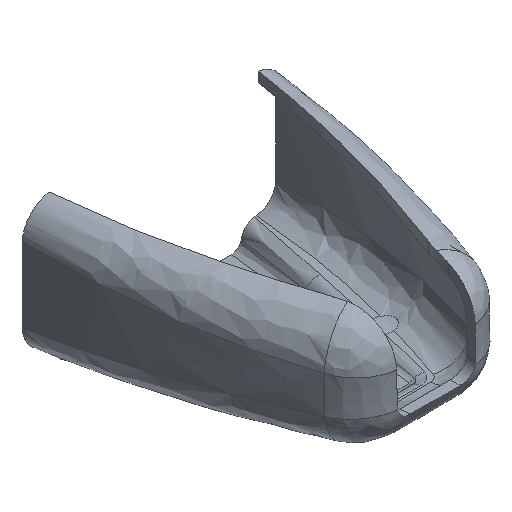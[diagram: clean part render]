
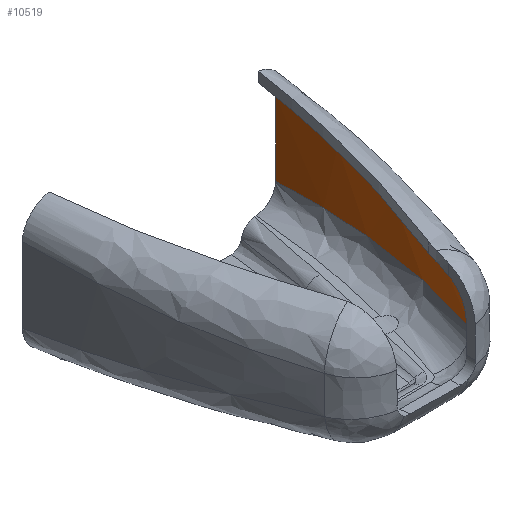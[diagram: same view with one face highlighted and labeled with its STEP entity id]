
A CAD part, isometric view. The second image highlights one B-rep face of the part: STEP entity #10519.
In plain terms, the highlighted free-form (B-spline) face has degree [3, 1] with [7, 3] control points.
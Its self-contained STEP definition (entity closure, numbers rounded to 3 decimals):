
#201 = ORIENTED_EDGE ( 'NONE', *, *, #4612, .T. ) ;
#219 = CARTESIAN_POINT ( 'NONE',  ( 14.208, 4.93, -3.784 ) ) ;
#278 = CARTESIAN_POINT ( 'NONE',  ( 21.32, 27.399, 4.603 ) ) ;
#339 = CARTESIAN_POINT ( 'NONE',  ( 22.418, 96.87, -12.622 ) ) ;
#444 = CARTESIAN_POINT ( 'NONE',  ( 22.121, 33.842, 5.123 ) ) ;
#509 = CARTESIAN_POINT ( 'NONE',  ( 24.726, 55., 6.757 ) ) ;
#1257 = VERTEX_POINT ( 'NONE', #11584 ) ;
#1730 = CARTESIAN_POINT ( 'NONE',  ( 21.32, 27.247, -5.432 ) ) ;
#1892 = CARTESIAN_POINT ( 'NONE',  ( 19.52, 21.29, 4.297 ) ) ;
#1895 = CARTESIAN_POINT ( 'NONE',  ( 24.728, 55., 4.847 ) ) ;
#1966 = CARTESIAN_POINT ( 'NONE',  ( 24.732, 55., -0.543 ) ) ;
#2682 = FACE_OUTER_BOUND ( 'NONE', #2886, .T. ) ;
#2886 = EDGE_LOOP ( 'NONE', ( #10141, #201, #5133, #9433 ) ) ;
#3192 = CARTESIAN_POINT ( 'NONE',  ( 24.902, 50.355, -7.706 ) ) ;
#3355 = CARTESIAN_POINT ( 'NONE',  ( 14.208, 5.048, 3.639 ) ) ;
#3359 = CARTESIAN_POINT ( 'NONE',  ( 24.73, 55., 2.937 ) ) ;
#3423 = CARTESIAN_POINT ( 'NONE',  ( 24.735, 55., -3.685 ) ) ;
#4120 = B_SPLINE_CURVE_WITH_KNOTS ( 'NONE', 3,
 ( #509, #1895, #3359, #10653, #1966, #12104, #3423, #13559, #4894, #15014 ),
 .UNSPECIFIED., .F., .F.,
 ( 4, 3, 3, 4 ),
 ( 0., 0.006, 0.01, 0.015 ),
 .UNSPECIFIED. ) ;
#4612 = EDGE_CURVE ( 'NONE', #7208, #16670, #4120, .T. ) ;
#4652 = CARTESIAN_POINT ( 'NONE',  ( 25.424, 73.969, 8.382 ) ) ;
#4894 = CARTESIAN_POINT ( 'NONE',  ( 24.737, 55., -6.726 ) ) ;
#5133 = ORIENTED_EDGE ( 'NONE', *, *, #13243, .F. ) ;
#6127 = CARTESIAN_POINT ( 'NONE',  ( 25.424, 73.7, -10.517 ) ) ;
#6230 = CARTESIAN_POINT ( 'NONE',  ( 24.459, 50.772, 6.406 ) ) ;
#6294 = CARTESIAN_POINT ( 'NONE',  ( 19.555, 21.281, -4.879 ) ) ;
#6949 = CARTESIAN_POINT ( 'NONE',  ( 14.208, 5.048, 3.639 ) ) ;
#7208 = VERTEX_POINT ( 'NONE', #18047 ) ;
#7516 = CARTESIAN_POINT ( 'NONE',  ( 16.906, 12.382, 3.85 ) ) ;
#7574 = CARTESIAN_POINT ( 'NONE',  ( 23.747, 89.195, -11.955 ) ) ;
#7675 = CARTESIAN_POINT ( 'NONE',  ( 24.04, 46.538, 6.064 ) ) ;
#7732 = CARTESIAN_POINT ( 'NONE',  ( 24.207, 46.439, -7.313 ) ) ;
#8760 = VERTEX_POINT ( 'NONE', #17838 ) ;
#8955 = CARTESIAN_POINT ( 'NONE',  ( 16.906, 12.255, -4.267 ) ) ;
#8989 = B_SPLINE_CURVE_WITH_KNOTS ( 'NONE', 1,
 ( #6949, #15490 ),
 .UNSPECIFIED., .F., .F.,
 ( 2, 2 ),
 ( 0., 1. ),
 .UNSPECIFIED. ) ;
#9020 = CARTESIAN_POINT ( 'NONE',  ( 22.418, 97.187, 10.067 ) ) ;
#9123 = CARTESIAN_POINT ( 'NONE',  ( 22.85, 38.061, 5.424 ) ) ;
#9433 = ORIENTED_EDGE ( 'NONE', *, *, #14815, .F. ) ;
#10141 = ORIENTED_EDGE ( 'NONE', *, *, #13241, .F. ) ;
#10425 = CARTESIAN_POINT ( 'NONE',  ( 21.32, 27.248, -5.333 ) ) ;
#10484 = CARTESIAN_POINT ( 'NONE',  ( 22.418, 96.866, -12.849 ) ) ;
#10519 = ADVANCED_FACE ( 'NONE', ( #2682 ), #11144, .T. ) ;
#10587 = CARTESIAN_POINT ( 'NONE',  ( 21.719, 31.742, 4.98 ) ) ;
#10653 = CARTESIAN_POINT ( 'NONE',  ( 24.731, 55., 1.028 ) ) ;
#11144 = B_SPLINE_SURFACE_WITH_KNOTS ( 'NONE', 3, 1, ( 
 ( #14720, #219, #16187 ),
 ( #7516, #17658, #8955 ),
 ( #278, #10425, #1730 ),
 ( #11871, #3192, #13331 ),
 ( #4652, #14775, #6127 ),
 ( #16250, #7574, #17723 ),
 ( #9020, #339, #10484 ) ),
 .UNSPECIFIED., .F., .F., .F.,
 ( 4, 1, 1, 1, 4 ),
 ( 2, 1, 2 ),
 ( 0., 0.25, 0.5, 0.75, 1. ),
 ( 0., 1., 1.01 ),
 .UNSPECIFIED. ) ;
#11584 = CARTESIAN_POINT ( 'NONE',  ( 14.208, 5.048, 3.639 ) ) ;
#11597 = CARTESIAN_POINT ( 'NONE',  ( 24.739, 55., -8.247 ) ) ;
#11871 = CARTESIAN_POINT ( 'NONE',  ( 24.905, 50.562, 6.348 ) ) ;
#12036 = CARTESIAN_POINT ( 'NONE',  ( 17.164, 13.083, 3.87 ) ) ;
#12104 = CARTESIAN_POINT ( 'NONE',  ( 24.734, 55., -2.114 ) ) ;
#13241 = EDGE_CURVE ( 'NONE', #7208, #1257, #17959, .T. ) ;
#13243 = EDGE_CURVE ( 'NONE', #8760, #16670, #14577, .T. ) ;
#13331 = CARTESIAN_POINT ( 'NONE',  ( 24.902, 50.353, -7.846 ) ) ;
#13559 = CARTESIAN_POINT ( 'NONE',  ( 24.736, 55., -5.206 ) ) ;
#14577 = B_SPLINE_CURVE_WITH_KNOTS ( 'NONE', 3,
 ( #16291, #16352, #6294, #16415, #7732, #17893 ),
 .UNSPECIFIED., .F., .F.,
 ( 4, 2, 4 ),
 ( 0., 0.276, 0.551 ),
 .UNSPECIFIED. ) ;
#14720 = CARTESIAN_POINT ( 'NONE',  ( 14.208, 5.048, 3.639 ) ) ;
#14775 = CARTESIAN_POINT ( 'NONE',  ( 25.424, 73.703, -10.33 ) ) ;
#14815 = EDGE_CURVE ( 'NONE', #1257, #8760, #8989, .T. ) ;
#14882 = CARTESIAN_POINT ( 'NONE',  ( 24.726, 55., 6.757 ) ) ;
#15014 = CARTESIAN_POINT ( 'NONE',  ( 24.739, 55., -8.247 ) ) ;
#15490 = CARTESIAN_POINT ( 'NONE',  ( 14.208, 4.93, -3.784 ) ) ;
#16187 = CARTESIAN_POINT ( 'NONE',  ( 14.208, 4.929, -3.858 ) ) ;
#16250 = CARTESIAN_POINT ( 'NONE',  ( 23.747, 89.498, 9.602 ) ) ;
#16291 = CARTESIAN_POINT ( 'NONE',  ( 14.208, 4.93, -3.784 ) ) ;
#16352 = CARTESIAN_POINT ( 'NONE',  ( 17.195, 13.04, -4.23 ) ) ;
#16415 = CARTESIAN_POINT ( 'NONE',  ( 23.061, 37.981, -6.42 ) ) ;
#16670 = VERTEX_POINT ( 'NONE', #11597 ) ;
#17658 = CARTESIAN_POINT ( 'NONE',  ( 16.906, 12.256, -4.187 ) ) ;
#17723 = CARTESIAN_POINT ( 'NONE',  ( 23.747, 89.192, -12.171 ) ) ;
#17831 = CARTESIAN_POINT ( 'NONE',  ( 23.178, 40.182, 5.58 ) ) ;
#17838 = CARTESIAN_POINT ( 'NONE',  ( 14.208, 4.93, -3.784 ) ) ;
#17893 = CARTESIAN_POINT ( 'NONE',  ( 24.739, 55., -8.247 ) ) ;
#17959 = B_SPLINE_CURVE_WITH_KNOTS ( 'NONE', 3,
 ( #14882, #6230, #7675, #17831, #9123, #444, #10587, #1892, #12036, #3355 ),
 .UNSPECIFIED., .F., .F.,
 ( 4, 2, 2, 2, 4 ),
 ( 0.455, 0.591, 0.659, 0.727, 1. ),
 .UNSPECIFIED. ) ;
#18047 = CARTESIAN_POINT ( 'NONE',  ( 24.726, 55., 6.757 ) ) ;
